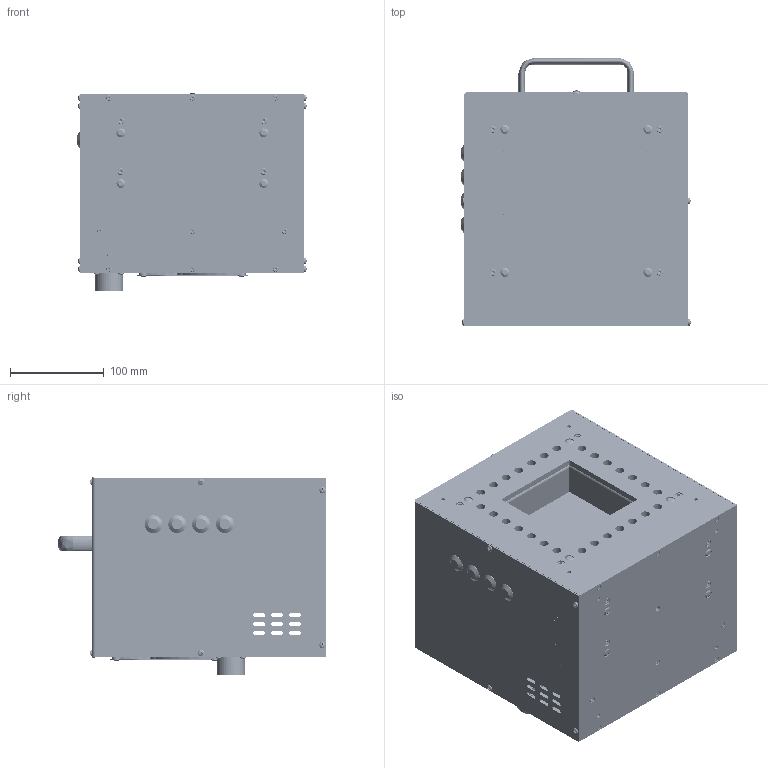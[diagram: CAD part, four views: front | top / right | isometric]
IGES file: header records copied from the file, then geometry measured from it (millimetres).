
Start section: SolidWorks IGES file using analytic representation for surfaces
Global section: file name: X:\ECO_SUB\052324\319-001-328\319-001-328_NC.IGS; native system: SolidWorks 2013; preprocessor: SolidWorks 2013; author: doug; date: 140925.111732; units: inch
Bounding box: 244.26 x 286.05 x 211.1 mm (x, y, z)
Surface area: 804648.7 mm2 (no closed solid volume)
Topology: 0 solids, 0 shells, 3793 faces, 44751 edges, 44711 vertices
Faces by surface type: bspline 2778, revolution 1015
